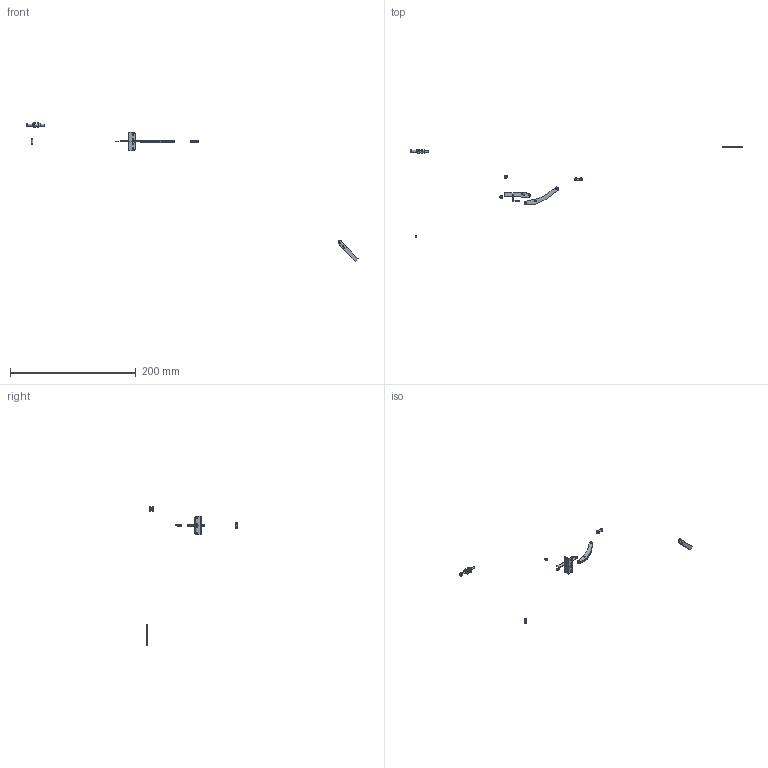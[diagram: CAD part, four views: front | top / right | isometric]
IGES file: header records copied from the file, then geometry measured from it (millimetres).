
Global section: file name: J-200 Open; native system: Autodesk RealDWG; preprocessor: Autodesk Translation Framework DWG producer (atf_dwg_producer); organization: unknown; date: 20150903.162417; units: centimetre
Bounding box: 528.98 x 144.93 x 220.61 mm (x, y, z)
Volume: 3103.9 mm3; surface area: 6105.9 mm2
Topology: 23 solids, 23 shells, 260 faces, 621 edges, 408 vertices
Faces by surface type: bspline 260
